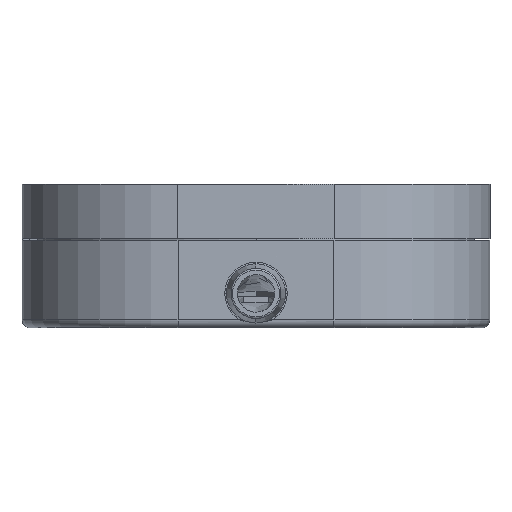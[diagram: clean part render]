
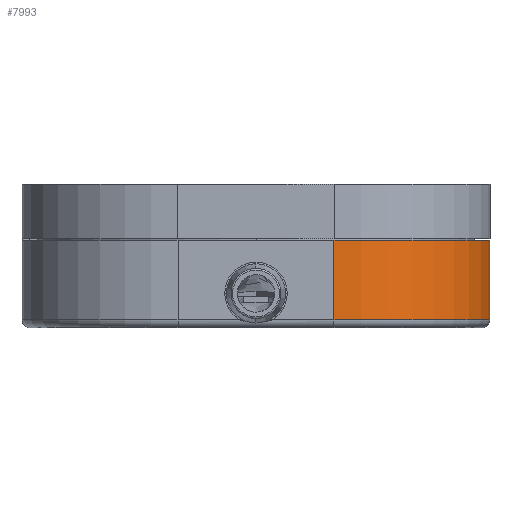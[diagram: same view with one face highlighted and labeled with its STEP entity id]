
A CAD part, left-side view. The second image highlights one B-rep face of the part: STEP entity #7993.
In plain terms, the highlighted cylindrical face has radius 5 mm (diameter 10 mm), a partial arc.
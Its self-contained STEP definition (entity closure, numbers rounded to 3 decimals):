
#54 = CARTESIAN_POINT ( 'NONE',  ( 0.042, -2.345, -2.447 ) ) ;
#415 = CARTESIAN_POINT ( 'NONE',  ( 0.042, -7.345, -2.447 ) ) ;
#619 = CARTESIAN_POINT ( 'NONE',  ( -4.958, -2.345, -2.447 ) ) ;
#673 = CARTESIAN_POINT ( 'NONE',  ( 0.042, -7.345, -2.197 ) ) ;
#1974 = DIRECTION ( 'NONE',  ( 0., 0., -1. ) ) ;
#2123 = CARTESIAN_POINT ( 'NONE',  ( 0.042, -2.345, -2.197 ) ) ;
#2727 = ORIENTED_EDGE ( 'NONE', *, *, #22128, .F. ) ;
#4040 = DIRECTION ( 'NONE',  ( 1., 0., 0. ) ) ;
#6033 = EDGE_CURVE ( 'NONE', #20136, #13206, #18046, .T. ) ;
#7264 = AXIS2_PLACEMENT_3D ( 'NONE', #54, #17435, #8635 ) ;
#7993 = ADVANCED_FACE ( 'NONE', ( #22308 ), #20646, .T. ) ;
#8635 = DIRECTION ( 'NONE',  ( 1., 0., 0. ) ) ;
#8862 = ORIENTED_EDGE ( 'NONE', *, *, #8929, .F. ) ;
#8929 = EDGE_CURVE ( 'NONE', #20136, #21915, #17578, .T. ) ;
#9431 = EDGE_CURVE ( 'NONE', #21915, #12254, #14568, .T. ) ;
#9733 = AXIS2_PLACEMENT_3D ( 'NONE', #10700, #17581, #10553 ) ;
#10234 = CARTESIAN_POINT ( 'NONE',  ( 0.042, -7.345, 0.353 ) ) ;
#10553 = DIRECTION ( 'NONE',  ( 1., 0., 0. ) ) ;
#10700 = CARTESIAN_POINT ( 'NONE',  ( 0.042, -2.345, 0.353 ) ) ;
#11423 = ORIENTED_EDGE ( 'NONE', *, *, #6033, .T. ) ;
#12254 = VERTEX_POINT ( 'NONE', #10234 ) ;
#13206 = VERTEX_POINT ( 'NONE', #673 ) ;
#13532 = LINE ( 'NONE', #415, #14612 ) ;
#14020 = VECTOR ( 'NONE', #18059, 1000. ) ;
#14568 = CIRCLE ( 'NONE', #9733, 5. ) ;
#14612 = VECTOR ( 'NONE', #1974, 1000. ) ;
#14964 = EDGE_LOOP ( 'NONE', ( #8862, #11423, #2727, #21731 ) ) ;
#15039 = CARTESIAN_POINT ( 'NONE',  ( -4.958, -2.345, 0.353 ) ) ;
#15858 = DIRECTION ( 'NONE',  ( 0., 0., 1. ) ) ;
#17435 = DIRECTION ( 'NONE',  ( 0., 0., 1. ) ) ;
#17578 = LINE ( 'NONE', #619, #14020 ) ;
#17581 = DIRECTION ( 'NONE',  ( 0., 0., 1. ) ) ;
#18046 = CIRCLE ( 'NONE', #19478, 5. ) ;
#18059 = DIRECTION ( 'NONE',  ( 0., 0., 1. ) ) ;
#19478 = AXIS2_PLACEMENT_3D ( 'NONE', #2123, #15858, #4040 ) ;
#20136 = VERTEX_POINT ( 'NONE', #20379 ) ;
#20379 = CARTESIAN_POINT ( 'NONE',  ( -4.958, -2.345, -2.197 ) ) ;
#20646 = CYLINDRICAL_SURFACE ( 'NONE', #7264, 5. ) ;
#21731 = ORIENTED_EDGE ( 'NONE', *, *, #9431, .F. ) ;
#21915 = VERTEX_POINT ( 'NONE', #15039 ) ;
#22128 = EDGE_CURVE ( 'NONE', #12254, #13206, #13532, .T. ) ;
#22308 = FACE_OUTER_BOUND ( 'NONE', #14964, .T. ) ;
